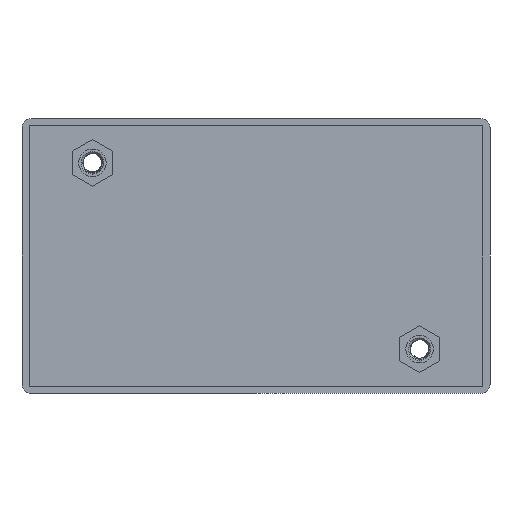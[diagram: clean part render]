
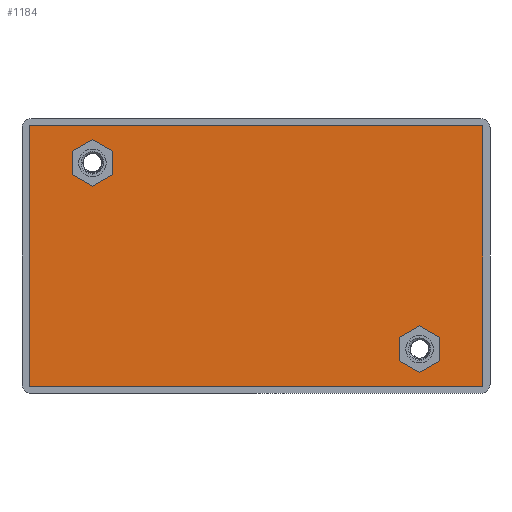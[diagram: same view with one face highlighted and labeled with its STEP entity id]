
A CAD part, front view. The second image highlights one B-rep face of the part: STEP entity #1184.
In plain terms, the highlighted planar face has unit normal (0, -1, 0).
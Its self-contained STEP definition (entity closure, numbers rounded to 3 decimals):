
#59 = CARTESIAN_POINT ( 'NONE',  ( -25.2, 0., 14.45 ) ) ;
#222 = EDGE_CURVE ( 'NONE', #5038, #4166, #3000, .T. ) ;
#231 = EDGE_LOOP ( 'NONE', ( #7483, #1345 ) ) ;
#265 = FACE_BOUND ( 'NONE', #4367, .T. ) ;
#269 = CARTESIAN_POINT ( 'NONE',  ( 18.175, 0., -10.35 ) ) ;
#422 = DIRECTION ( 'NONE',  ( -1., 0., 0. ) ) ;
#493 = EDGE_CURVE ( 'NONE', #3501, #6446, #6510, .T. ) ;
#501 = CARTESIAN_POINT ( 'NONE',  ( -25.2, 0., 14.45 ) ) ;
#531 = PLANE ( 'NONE',  #2997 ) ;
#536 = EDGE_CURVE ( 'NONE', #6446, #3501, #4706, .T. ) ;
#864 = DIRECTION ( 'NONE',  ( 0., 0., 1. ) ) ;
#977 = CARTESIAN_POINT ( 'NONE',  ( -18.175, 0., 12.15 ) ) ;
#1050 = AXIS2_PLACEMENT_3D ( 'NONE', #269, #4491, #864 ) ;
#1100 = CARTESIAN_POINT ( 'NONE',  ( 18.175, 0., -8.55 ) ) ;
#1120 = DIRECTION ( 'NONE',  ( 0., 0., 1. ) ) ;
#1184 = ADVANCED_FACE ( 'NONE', ( #6888, #265, #3445 ), #531, .F. ) ;
#1345 = ORIENTED_EDGE ( 'NONE', *, *, #3178, .T. ) ;
#1456 = AXIS2_PLACEMENT_3D ( 'NONE', #5698, #2074, #6319 ) ;
#1512 = DIRECTION ( 'NONE',  ( 0., 0., 1. ) ) ;
#1905 = CARTESIAN_POINT ( 'NONE',  ( 25.2, 0., 14.45 ) ) ;
#1988 = CARTESIAN_POINT ( 'NONE',  ( -25.2, 0., -14.45 ) ) ;
#2074 = DIRECTION ( 'NONE',  ( 0., 1., 0. ) ) ;
#2100 = DIRECTION ( 'NONE',  ( 0., 0., 1. ) ) ;
#2201 = DIRECTION ( 'NONE',  ( 0., 1., 0. ) ) ;
#2540 = AXIS2_PLACEMENT_3D ( 'NONE', #3870, #3925, #1512 ) ;
#2564 = CIRCLE ( 'NONE', #1456, 1.8 ) ;
#2595 = CARTESIAN_POINT ( 'NONE',  ( -18.175, 0., 10.35 ) ) ;
#2661 = VECTOR ( 'NONE', #422, 1000. ) ;
#2683 = VECTOR ( 'NONE', #5011, 1000. ) ;
#2997 = AXIS2_PLACEMENT_3D ( 'NONE', #501, #4742, #1120 ) ;
#3000 = LINE ( 'NONE', #4925, #7462 ) ;
#3117 = ORIENTED_EDGE ( 'NONE', *, *, #222, .F. ) ;
#3178 = EDGE_CURVE ( 'NONE', #3701, #5593, #7031, .T. ) ;
#3185 = EDGE_CURVE ( 'NONE', #5593, #3701, #2564, .T. ) ;
#3241 = VERTEX_POINT ( 'NONE', #3329 ) ;
#3329 = CARTESIAN_POINT ( 'NONE',  ( 25.2, 0., -14.45 ) ) ;
#3445 = FACE_OUTER_BOUND ( 'NONE', #5226, .T. ) ;
#3501 = VERTEX_POINT ( 'NONE', #5427 ) ;
#3701 = VERTEX_POINT ( 'NONE', #4483 ) ;
#3812 = VERTEX_POINT ( 'NONE', #6434 ) ;
#3833 = EDGE_CURVE ( 'NONE', #3241, #3812, #4072, .T. ) ;
#3870 = CARTESIAN_POINT ( 'NONE',  ( -18.175, 0., 10.35 ) ) ;
#3923 = VECTOR ( 'NONE', #6226, 1000. ) ;
#3925 = DIRECTION ( 'NONE',  ( 0., 1., 0. ) ) ;
#4072 = LINE ( 'NONE', #7656, #2661 ) ;
#4152 = AXIS2_PLACEMENT_3D ( 'NONE', #2595, #2201, #2100 ) ;
#4166 = VERTEX_POINT ( 'NONE', #1905 ) ;
#4317 = LINE ( 'NONE', #1988, #3923 ) ;
#4367 = EDGE_LOOP ( 'NONE', ( #5027, #4375 ) ) ;
#4375 = ORIENTED_EDGE ( 'NONE', *, *, #493, .T. ) ;
#4400 = CARTESIAN_POINT ( 'NONE',  ( 25.2, 0., -14.45 ) ) ;
#4483 = CARTESIAN_POINT ( 'NONE',  ( 18.175, 0., -12.15 ) ) ;
#4491 = DIRECTION ( 'NONE',  ( 0., 1., 0. ) ) ;
#4499 = ORIENTED_EDGE ( 'NONE', *, *, #6872, .F. ) ;
#4568 = ORIENTED_EDGE ( 'NONE', *, *, #3833, .F. ) ;
#4706 = CIRCLE ( 'NONE', #4152, 1.8 ) ;
#4742 = DIRECTION ( 'NONE',  ( 0., 1., 0. ) ) ;
#4925 = CARTESIAN_POINT ( 'NONE',  ( -25.2, 0., 14.45 ) ) ;
#5011 = DIRECTION ( 'NONE',  ( 0., 0., -1. ) ) ;
#5027 = ORIENTED_EDGE ( 'NONE', *, *, #536, .T. ) ;
#5038 = VERTEX_POINT ( 'NONE', #59 ) ;
#5226 = EDGE_LOOP ( 'NONE', ( #7167, #4568, #4499, #3117 ) ) ;
#5427 = CARTESIAN_POINT ( 'NONE',  ( -18.175, 0., 8.55 ) ) ;
#5593 = VERTEX_POINT ( 'NONE', #1100 ) ;
#5633 = DIRECTION ( 'NONE',  ( 1., 0., 0. ) ) ;
#5698 = CARTESIAN_POINT ( 'NONE',  ( 18.175, 0., -10.35 ) ) ;
#5904 = LINE ( 'NONE', #4400, #2683 ) ;
#5935 = EDGE_CURVE ( 'NONE', #3812, #5038, #4317, .T. ) ;
#6226 = DIRECTION ( 'NONE',  ( 0., 0., 1. ) ) ;
#6319 = DIRECTION ( 'NONE',  ( 0., 0., 1. ) ) ;
#6434 = CARTESIAN_POINT ( 'NONE',  ( -25.2, 0., -14.45 ) ) ;
#6446 = VERTEX_POINT ( 'NONE', #977 ) ;
#6510 = CIRCLE ( 'NONE', #2540, 1.8 ) ;
#6872 = EDGE_CURVE ( 'NONE', #4166, #3241, #5904, .T. ) ;
#6888 = FACE_BOUND ( 'NONE', #231, .T. ) ;
#7031 = CIRCLE ( 'NONE', #1050, 1.8 ) ;
#7167 = ORIENTED_EDGE ( 'NONE', *, *, #5935, .F. ) ;
#7462 = VECTOR ( 'NONE', #5633, 1000. ) ;
#7483 = ORIENTED_EDGE ( 'NONE', *, *, #3185, .T. ) ;
#7656 = CARTESIAN_POINT ( 'NONE',  ( -25.2, 0., -14.45 ) ) ;
